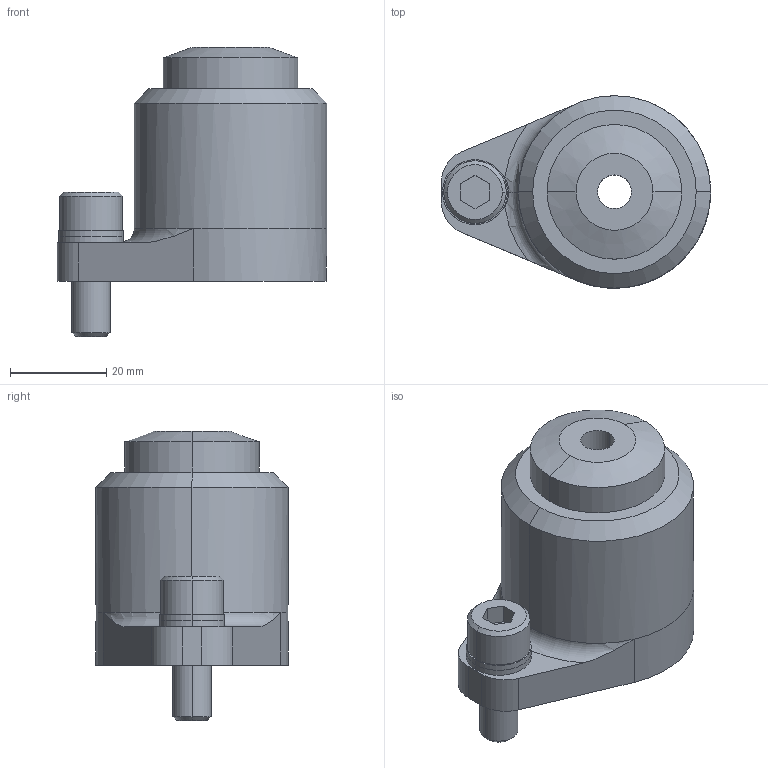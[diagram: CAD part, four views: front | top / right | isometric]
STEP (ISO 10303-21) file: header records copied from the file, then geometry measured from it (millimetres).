
FILE_DESCRIPTION(/* description */ (''),/* implementation_level */ '2;1');
FILE_NAME(/* name */ '3d_spra10-g-p7.00_05388_r00.stp',/* time_stamp */ '2011-01-10T14:10:08+09:00',/* author */ ('MISUMI'),/* organization */ (''),/* preprocessor_version */ 'ST-DEVELOPER v11',/* originating_system */ 'UGS - NX 5.0',/* authorisation */ '');
FILE_SCHEMA (('CONFIG_CONTROL_DESIGN'));
Length unit declared in the file: millimetre
Products named in the file (1): 3d_spra10-g-p7.00_05388_r00
Bounding box: 56 x 40 x 60.1 mm (x, y, z)
Volume: 52818.5 mm3; surface area: 23706.9 mm2
Topology: 6 solids, 6 shells, 74 faces, 163 edges, 105 vertices
Faces by surface type: cylinder 38, plane 26, cone 8, torus 2
Entity records: 2174 total; most frequent: DIRECTION 396, CARTESIAN_POINT 359, ORIENTED_EDGE 326, EDGE_CURVE 163, AXIS2_PLACEMENT_3D 162, VERTEX_POINT 105, EDGE_LOOP 90, CIRCLE 87
